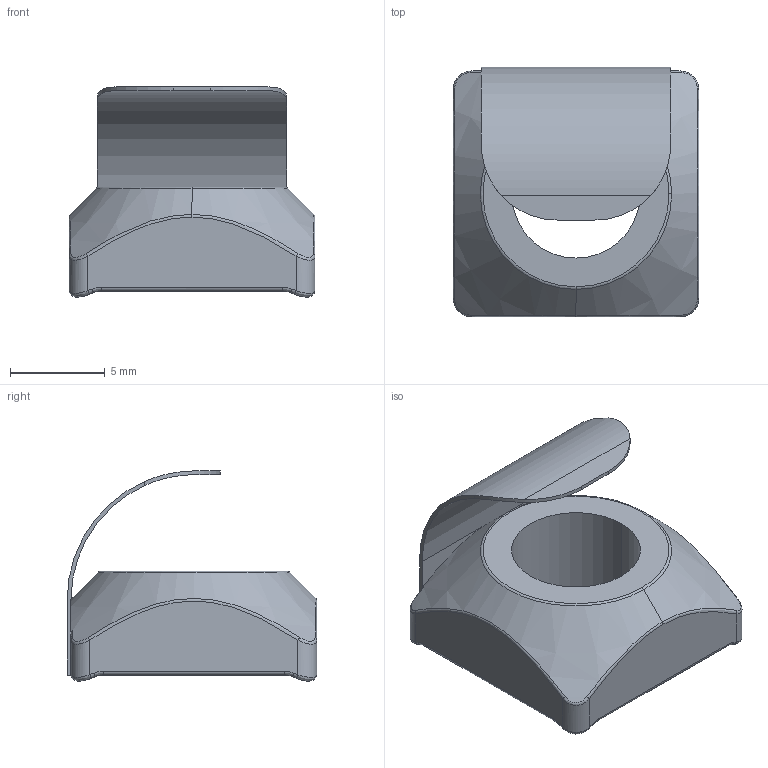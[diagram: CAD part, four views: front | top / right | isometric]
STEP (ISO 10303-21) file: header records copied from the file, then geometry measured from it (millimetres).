
FILE_DESCRIPTION (( 'STEP AP214' ), '1' );
FILE_NAME ('1.2128 Neliömutteri M8 kiinnityslevyllä ESD.STEP', '2025-09-26T06:37:41', ( '' ), ( '' ), 'SwSTEP 2.0', 'SolidWorks 2025', '' );
FILE_SCHEMA (( 'AUTOMOTIVE_DESIGN' ));
Length unit declared in the file: millimetre
Products named in the file (1): 1.2128 Neliömutteri M8 kiinnityslevyllä ESD
Bounding box: 13 x 13.2 x 11.12 mm (x, y, z)
Volume: 627.8 mm3; surface area: 809.5 mm2
Topology: 1 solids, 1 shells, 77 faces, 188 edges, 113 vertices
Faces by surface type: cylinder 29, bspline 22, plane 19, cone 4, torus 3
Entity records: 3284 total; most frequent: CARTESIAN_POINT 1631, ORIENTED_EDGE 376, DIRECTION 300, EDGE_CURVE 188, AXIS2_PLACEMENT_3D 116, VERTEX_POINT 113, EDGE_LOOP 79, FACE_OUTER_BOUND 77
